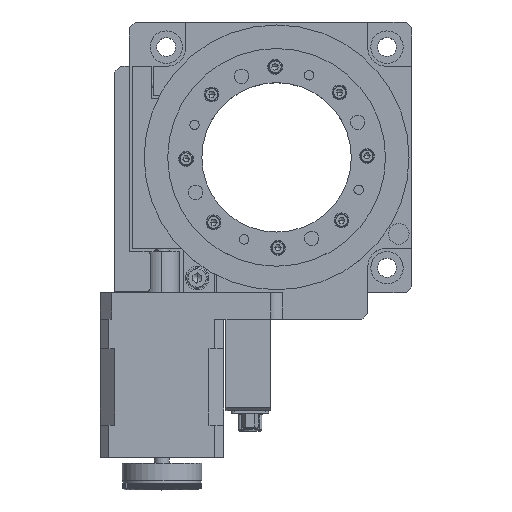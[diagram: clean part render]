
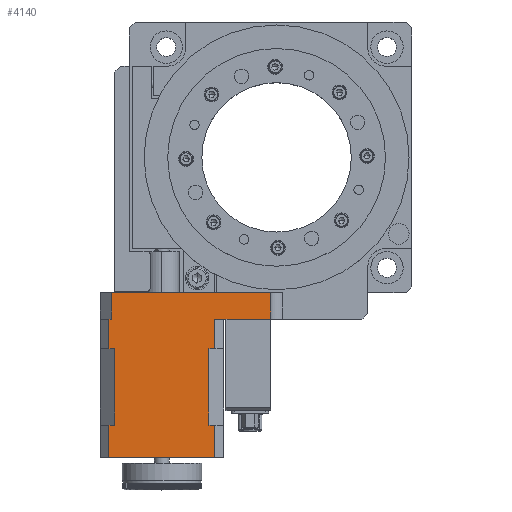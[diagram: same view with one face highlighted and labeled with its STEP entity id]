
A CAD part, top view. The second image highlights one B-rep face of the part: STEP entity #4140.
In plain terms, the highlighted planar face has unit normal (0, 0, 1).
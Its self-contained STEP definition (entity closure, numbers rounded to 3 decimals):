
#3079 = VERTEX_POINT ( 'NONE', #18697 ) ;
#3081 = EDGE_CURVE ( 'NONE', #3082, #3079, #18696, .T. ) ;
#3082 = VERTEX_POINT ( 'NONE', #18688 ) ;
#3223 = EDGE_CURVE ( 'NONE', #3237, #3304, #19107, .T. ) ;
#3237 = VERTEX_POINT ( 'NONE', #19179 ) ;
#3240 = EDGE_CURVE ( 'NONE', #3241, #3237, #19175, .T. ) ;
#3241 = VERTEX_POINT ( 'NONE', #19166 ) ;
#3269 = VERTEX_POINT ( 'NONE', #19331 ) ;
#3276 = VERTEX_POINT ( 'NONE', #19311 ) ;
#3278 = EDGE_CURVE ( 'NONE', #3294, #3276, #19308, .T. ) ;
#3283 = VERTEX_POINT ( 'NONE', #19411 ) ;
#3286 = EDGE_CURVE ( 'NONE', #3276, #3283, #19404, .T. ) ;
#3288 = VERTEX_POINT ( 'NONE', #19391 ) ;
#3294 = VERTEX_POINT ( 'NONE', #19370 ) ;
#3296 = EDGE_CURVE ( 'NONE', #3288, #3294, #19366, .T. ) ;
#3304 = VERTEX_POINT ( 'NONE', #19458 ) ;
#3326 = EDGE_CURVE ( 'NONE', #3079, #3269, #19533, .T. ) ;
#3333 = EDGE_CURVE ( 'NONE', #3269, #3241, #19503, .T. ) ;
#3394 = EDGE_CURVE ( 'NONE', #3283, #3418, #19700, .T. ) ;
#3418 = VERTEX_POINT ( 'NONE', #19874 ) ;
#3434 = EDGE_CURVE ( 'NONE', #3453, #3288, #19942, .T. ) ;
#3453 = VERTEX_POINT ( 'NONE', #19875 ) ;
#3492 = VERTEX_POINT ( 'NONE', #20018 ) ;
#3494 = EDGE_CURVE ( 'NONE', #3304, #3492, #20014, .T. ) ;
#3990 = VERTEX_POINT ( 'NONE', #21742 ) ;
#3996 = EDGE_CURVE ( 'NONE', #3990, #3082, #21732, .T. ) ;
#4107 = EDGE_CURVE ( 'NONE', #4108, #3418, #22047, .T. ) ;
#4108 = VERTEX_POINT ( 'NONE', #22041 ) ;
#4109 = ORIENTED_EDGE ( 'NONE', *, *, #4110, .T. ) ;
#4110 = EDGE_CURVE ( 'NONE', #4108, #4111, #22036, .T. ) ;
#4111 = VERTEX_POINT ( 'NONE', #22029 ) ;
#4112 = ORIENTED_EDGE ( 'NONE', *, *, #4113, .T. ) ;
#4113 = EDGE_CURVE ( 'NONE', #4111, #3990, #22025, .T. ) ;
#4114 = ORIENTED_EDGE ( 'NONE', *, *, #3996, .T. ) ;
#4115 = ORIENTED_EDGE ( 'NONE', *, *, #3081, .T. ) ;
#4123 = ORIENTED_EDGE ( 'NONE', *, *, #3223, .T. ) ;
#4124 = ORIENTED_EDGE ( 'NONE', *, *, #3494, .T. ) ;
#4125 = ORIENTED_EDGE ( 'NONE', *, *, #4126, .T. ) ;
#4126 = EDGE_CURVE ( 'NONE', #3492, #3453, #22124, .T. ) ;
#4127 = ORIENTED_EDGE ( 'NONE', *, *, #3434, .T. ) ;
#4128 = ORIENTED_EDGE ( 'NONE', *, *, #3296, .T. ) ;
#4129 = ORIENTED_EDGE ( 'NONE', *, *, #3278, .T. ) ;
#4130 = ORIENTED_EDGE ( 'NONE', *, *, #3286, .T. ) ;
#4131 = ORIENTED_EDGE ( 'NONE', *, *, #3394, .T. ) ;
#4132 = ORIENTED_EDGE ( 'NONE', *, *, #4107, .F. ) ;
#4140 = ADVANCED_FACE ( 'NONE', ( #22099 ), #22094, .T. ) ;
#4141 = EDGE_LOOP ( 'NONE', ( #4142, #4143, #4144, #4123, #4124, #4125, #4127, #4128, #4129, #4130, #4131, #4132, #4109, #4112, #4114, #4115 ) ) ;
#4142 = ORIENTED_EDGE ( 'NONE', *, *, #3326, .T. ) ;
#4143 = ORIENTED_EDGE ( 'NONE', *, *, #3333, .T. ) ;
#4144 = ORIENTED_EDGE ( 'NONE', *, *, #3240, .T. ) ;
#18688 = CARTESIAN_POINT ( 'NONE',  ( -6., -9., 42.5 ) ) ;
#18691 = DIRECTION ( 'NONE',  ( -1., 0., 0. ) ) ;
#18692 = VECTOR ( 'NONE', #18691, 1000. ) ;
#18694 = CARTESIAN_POINT ( 'NONE',  ( 11., -9., 42.5 ) ) ;
#18696 = LINE ( 'NONE', #18694, #18692 ) ;
#18697 = CARTESIAN_POINT ( 'NONE',  ( -7., -9., 42.5 ) ) ;
#19103 = DIRECTION ( 'NONE',  ( -1., 0., 0. ) ) ;
#19104 = VECTOR ( 'NONE', #19103, 1000. ) ;
#19106 = CARTESIAN_POINT ( 'NONE',  ( -10., -45., 42.5 ) ) ;
#19107 = LINE ( 'NONE', #19106, #19104 ) ;
#19166 = CARTESIAN_POINT ( 'NONE',  ( -5., -19., 42.5 ) ) ;
#19169 = DIRECTION ( 'NONE',  ( 0., -1., 0. ) ) ;
#19171 = VECTOR ( 'NONE', #19169, 1000. ) ;
#19173 = CARTESIAN_POINT ( 'NONE',  ( -5., -9., 42.5 ) ) ;
#19175 = LINE ( 'NONE', #19173, #19171 ) ;
#19179 = CARTESIAN_POINT ( 'NONE',  ( -5., -45., 42.5 ) ) ;
#19303 = DIRECTION ( 'NONE',  ( 0., 1., 0. ) ) ;
#19305 = VECTOR ( 'NONE', #19303, 1000. ) ;
#19307 = CARTESIAN_POINT ( 'NONE',  ( 27., -9., 42.5 ) ) ;
#19308 = LINE ( 'NONE', #19307, #19305 ) ;
#19311 = CARTESIAN_POINT ( 'NONE',  ( 27., -19., 42.5 ) ) ;
#19331 = CARTESIAN_POINT ( 'NONE',  ( -7., -19., 42.5 ) ) ;
#19361 = DIRECTION ( 'NONE',  ( -1., 0., 0. ) ) ;
#19362 = VECTOR ( 'NONE', #19361, 1000. ) ;
#19364 = CARTESIAN_POINT ( 'NONE',  ( -10., -45., 42.5 ) ) ;
#19366 = LINE ( 'NONE', #19364, #19362 ) ;
#19370 = CARTESIAN_POINT ( 'NONE',  ( 27., -45., 42.5 ) ) ;
#19391 = CARTESIAN_POINT ( 'NONE',  ( 29., -45., 42.5 ) ) ;
#19401 = DIRECTION ( 'NONE',  ( 1., 0., 0. ) ) ;
#19402 = VECTOR ( 'NONE', #19401, 1000. ) ;
#19403 = CARTESIAN_POINT ( 'NONE',  ( -10., -19., 42.5 ) ) ;
#19404 = LINE ( 'NONE', #19403, #19402 ) ;
#19411 = CARTESIAN_POINT ( 'NONE',  ( 29., -19., 42.5 ) ) ;
#19458 = CARTESIAN_POINT ( 'NONE',  ( -7., -45., 42.5 ) ) ;
#19498 = DIRECTION ( 'NONE',  ( 1., 0., 0. ) ) ;
#19499 = VECTOR ( 'NONE', #19498, 1000. ) ;
#19501 = CARTESIAN_POINT ( 'NONE',  ( -10., -19., 42.5 ) ) ;
#19503 = LINE ( 'NONE', #19501, #19499 ) ;
#19528 = DIRECTION ( 'NONE',  ( 0., -1., 0. ) ) ;
#19529 = VECTOR ( 'NONE', #19528, 1000. ) ;
#19531 = CARTESIAN_POINT ( 'NONE',  ( -7., -9., 42.5 ) ) ;
#19533 = LINE ( 'NONE', #19531, #19529 ) ;
#19696 = DIRECTION ( 'NONE',  ( 0., 1., 0. ) ) ;
#19698 = VECTOR ( 'NONE', #19696, 1000. ) ;
#19699 = CARTESIAN_POINT ( 'NONE',  ( 29., -9., 42.5 ) ) ;
#19700 = LINE ( 'NONE', #19699, #19698 ) ;
#19874 = CARTESIAN_POINT ( 'NONE',  ( 29., -9., 42.5 ) ) ;
#19875 = CARTESIAN_POINT ( 'NONE',  ( 29., -56., 42.5 ) ) ;
#19937 = DIRECTION ( 'NONE',  ( 0., 1., 0. ) ) ;
#19939 = VECTOR ( 'NONE', #19937, 1000. ) ;
#19941 = CARTESIAN_POINT ( 'NONE',  ( 29., -9., 42.5 ) ) ;
#19942 = LINE ( 'NONE', #19941, #19939 ) ;
#20011 = DIRECTION ( 'NONE',  ( 0., -1., 0. ) ) ;
#20012 = VECTOR ( 'NONE', #20011, 1000. ) ;
#20013 = CARTESIAN_POINT ( 'NONE',  ( -7., -9., 42.5 ) ) ;
#20014 = LINE ( 'NONE', #20013, #20012 ) ;
#20018 = CARTESIAN_POINT ( 'NONE',  ( -7., -56., 42.5 ) ) ;
#21728 = DIRECTION ( 'NONE',  ( 0., -1., 0. ) ) ;
#21729 = VECTOR ( 'NONE', #21728, 1000. ) ;
#21730 = CARTESIAN_POINT ( 'NONE',  ( -6., -9., 42.5 ) ) ;
#21732 = LINE ( 'NONE', #21730, #21729 ) ;
#21742 = CARTESIAN_POINT ( 'NONE',  ( -6., 0., 42.5 ) ) ;
#22020 = DIRECTION ( 'NONE',  ( -1., 0., 0. ) ) ;
#22022 = VECTOR ( 'NONE', #22020, 1000. ) ;
#22023 = CARTESIAN_POINT ( 'NONE',  ( 33.391, 0., 42.5 ) ) ;
#22025 = LINE ( 'NONE', #22023, #22022 ) ;
#22029 = CARTESIAN_POINT ( 'NONE',  ( 48., 0., 42.5 ) ) ;
#22030 = DIRECTION ( 'NONE',  ( 0., 1., 0. ) ) ;
#22032 = VECTOR ( 'NONE', #22030, 1000. ) ;
#22034 = CARTESIAN_POINT ( 'NONE',  ( 48., -23.333, 42.5 ) ) ;
#22036 = LINE ( 'NONE', #22034, #22032 ) ;
#22041 = CARTESIAN_POINT ( 'NONE',  ( 48., -9., 42.5 ) ) ;
#22044 = DIRECTION ( 'NONE',  ( -1., 0., 0. ) ) ;
#22045 = VECTOR ( 'NONE', #22044, 1000. ) ;
#22046 = CARTESIAN_POINT ( 'NONE',  ( 33.391, -9., 42.5 ) ) ;
#22047 = LINE ( 'NONE', #22046, #22045 ) ;
#22090 = DIRECTION ( 'NONE',  ( 0., -1., 0. ) ) ;
#22091 = DIRECTION ( 'NONE',  ( 0., 0., 1. ) ) ;
#22092 = CARTESIAN_POINT ( 'NONE',  ( -10., -9., 42.5 ) ) ;
#22093 = AXIS2_PLACEMENT_3D ( 'NONE', #22092, #22091, #22090 ) ;
#22094 = PLANE ( 'NONE',  #22093 ) ;
#22099 = FACE_OUTER_BOUND ( 'NONE', #4141, .T. ) ;
#22119 = DIRECTION ( 'NONE',  ( 1., 0., 0. ) ) ;
#22121 = VECTOR ( 'NONE', #22119, 1000. ) ;
#22122 = CARTESIAN_POINT ( 'NONE',  ( 11., -56., 42.5 ) ) ;
#22124 = LINE ( 'NONE', #22122, #22121 ) ;
